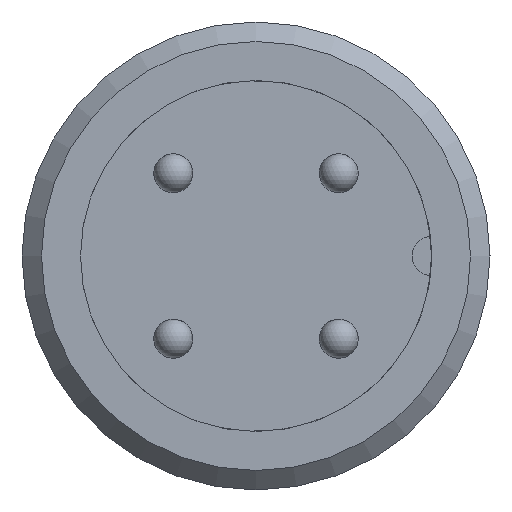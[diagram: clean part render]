
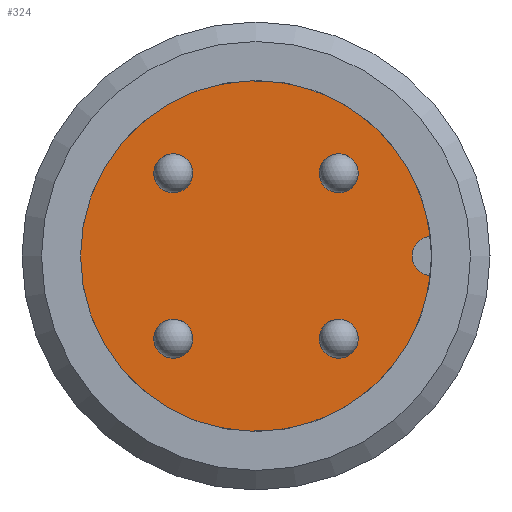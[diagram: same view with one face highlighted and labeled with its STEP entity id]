
A CAD part, left-side view. The second image highlights one B-rep face of the part: STEP entity #324.
In plain terms, the highlighted planar face has unit normal (-1, 0, 0).
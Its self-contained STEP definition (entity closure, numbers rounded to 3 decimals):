
#73=CARTESIAN_POINT('',(-42.478,-4.472,0.499));
#74=VERTEX_POINT('',#73);
#83=CARTESIAN_POINT('',(-42.478,-4.472,-0.499));
#84=VERTEX_POINT('',#83);
#85=CARTESIAN_POINT('',(-42.478,-4.5,0.0));
#86=DIRECTION('',(1.0,0.0,0.0));
#87=DIRECTION('',(0.0,0.0,-1.0));
#88=AXIS2_PLACEMENT_3D('',#85,#86,#87);
#89=CIRCLE('',#88,0.5);
#90=EDGE_CURVE('',#84,#74,#89,.T.);
#134=CARTESIAN_POINT('',(-42.478,0.0,0.0));
#135=DIRECTION('',(1.0,0.0,0.0));
#136=DIRECTION('',(0.0,1.0,0.0));
#137=AXIS2_PLACEMENT_3D('',#134,#135,#136);
#138=CIRCLE('',#137,4.5);
#139=EDGE_CURVE('',#84,#74,#138,.T.);
#177=CARTESIAN_POINT('',(-42.478,-2.121,-1.621));
#178=VERTEX_POINT('',#177);
#179=CARTESIAN_POINT('',(-42.478,-2.121,-2.121));
#180=DIRECTION('',(1.0,0.0,0.0));
#181=DIRECTION('',(0.0,0.0,-1.0));
#182=AXIS2_PLACEMENT_3D('',#179,#180,#181);
#183=CIRCLE('',#182,0.5);
#184=EDGE_CURVE('',#178,#178,#183,.T.);
#214=CARTESIAN_POINT('',(-42.478,-2.121,2.621));
#215=VERTEX_POINT('',#214);
#216=CARTESIAN_POINT('',(-42.478,-2.121,2.121));
#217=DIRECTION('',(1.0,0.0,0.0));
#218=DIRECTION('',(0.0,0.0,-1.0));
#219=AXIS2_PLACEMENT_3D('',#216,#217,#218);
#220=CIRCLE('',#219,0.5);
#221=EDGE_CURVE('',#215,#215,#220,.T.);
#251=CARTESIAN_POINT('',(-42.478,2.121,-1.621));
#252=VERTEX_POINT('',#251);
#253=CARTESIAN_POINT('',(-42.478,2.121,-2.121));
#254=DIRECTION('',(1.0,0.0,0.0));
#255=DIRECTION('',(0.0,0.0,-1.0));
#256=AXIS2_PLACEMENT_3D('',#253,#254,#255);
#257=CIRCLE('',#256,0.5);
#258=EDGE_CURVE('',#252,#252,#257,.T.);
#288=CARTESIAN_POINT('',(-42.478,2.121,2.621));
#289=VERTEX_POINT('',#288);
#290=CARTESIAN_POINT('',(-42.478,2.121,2.121));
#291=DIRECTION('',(1.0,0.0,0.0));
#292=DIRECTION('',(0.0,0.0,-1.0));
#293=AXIS2_PLACEMENT_3D('',#290,#291,#292);
#294=CIRCLE('',#293,0.5);
#295=EDGE_CURVE('',#289,#289,#294,.T.);
#303=CARTESIAN_POINT('',(-42.478,2.25,0.0));
#304=DIRECTION('',(-1.0,0.0,0.0));
#305=DIRECTION('',(0.0,0.0,1.0));
#306=AXIS2_PLACEMENT_3D('',#303,#304,#305);
#307=PLANE('',#306);
#308=ORIENTED_EDGE('',*,*,#90,.T.);
#309=ORIENTED_EDGE('',*,*,#139,.F.);
#310=EDGE_LOOP('',(#308,#309));
#311=FACE_OUTER_BOUND('',#310,.T.);
#312=ORIENTED_EDGE('',*,*,#258,.T.);
#313=EDGE_LOOP('',(#312));
#314=FACE_BOUND('',#313,.T.);
#315=ORIENTED_EDGE('',*,*,#221,.T.);
#316=EDGE_LOOP('',(#315));
#317=FACE_BOUND('',#316,.T.);
#318=ORIENTED_EDGE('',*,*,#295,.T.);
#319=EDGE_LOOP('',(#318));
#320=FACE_BOUND('',#319,.T.);
#321=ORIENTED_EDGE('',*,*,#184,.T.);
#322=EDGE_LOOP('',(#321));
#323=FACE_BOUND('',#322,.T.);
#324=ADVANCED_FACE('',(#311,#314,#317,#320,#323),#307,.T.);
